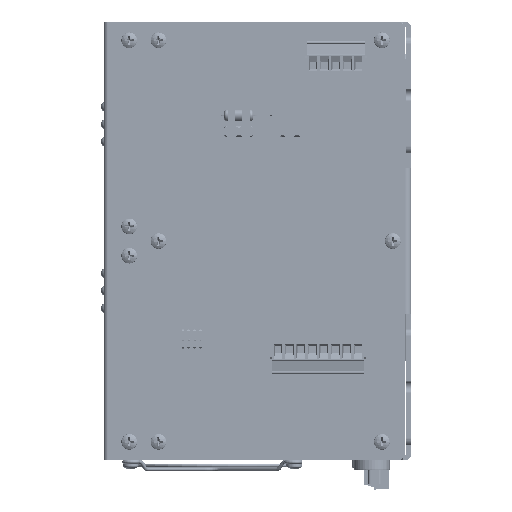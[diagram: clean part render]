
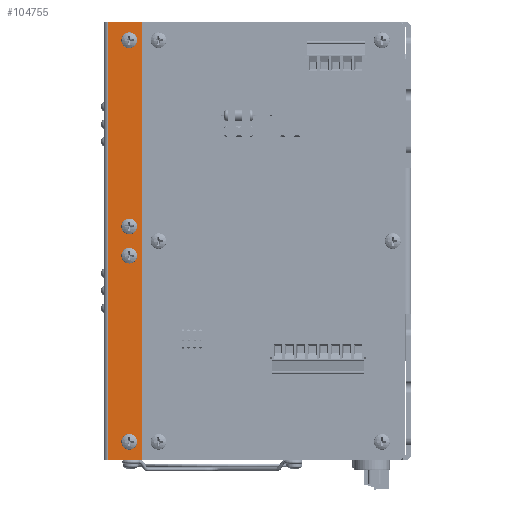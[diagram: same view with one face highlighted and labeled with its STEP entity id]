
A CAD part, left-side view. The second image highlights one B-rep face of the part: STEP entity #104755.
In plain terms, the highlighted planar face has unit normal (-1, 0, 0).
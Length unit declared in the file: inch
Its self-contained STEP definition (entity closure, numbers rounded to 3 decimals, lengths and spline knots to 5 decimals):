
#3649 = EDGE_CURVE ( 'NONE', #4580, #4584, #638875, .T. ) ;
#4195 = EDGE_CURVE ( 'NONE', #4291, #976646, #641702, .T. ) ;
#4291 = VERTEX_POINT ( 'NONE', #642279 ) ;
#4580 = VERTEX_POINT ( 'NONE', #645475 ) ;
#4584 = VERTEX_POINT ( 'NONE', #645455 ) ;
#5308 = VERTEX_POINT ( 'NONE', #649343 ) ;
#5550 = VERTEX_POINT ( 'NONE', #650153 ) ;
#5718 = EDGE_CURVE ( 'NONE', #5550, #5308, #651615, .T. ) ;
#5732 = VERTEX_POINT ( 'NONE', #651387 ) ;
#6209 = VERTEX_POINT ( 'NONE', #654412 ) ;
#7379 = EDGE_CURVE ( 'NONE', #5732, #6209, #663863, .T. ) ;
#101453 = VERTEX_POINT ( 'NONE', #989391 ) ;
#101522 = VERTEX_POINT ( 'NONE', #990586 ) ;
#102604 = EDGE_CURVE ( 'NONE', #102642, #101522, #1000183, .T. ) ;
#102642 = VERTEX_POINT ( 'NONE', #1000793 ) ;
#104207 = EDGE_CURVE ( 'NONE', #976646, #4291, #1015720, .T. ) ;
#104251 = ORIENTED_EDGE ( 'NONE', *, *, #104207, .T. ) ;
#104540 = EDGE_CURVE ( 'NONE', #101453, #101522, #1018340, .T. ) ;
#104572 = EDGE_LOOP ( 'NONE', ( #105001, #105143, #105180, #105133 ) ) ;
#104633 = EDGE_LOOP ( 'NONE', ( #104251, #104771 ) ) ;
#104755 = ADVANCED_FACE ( 'NONE', ( #1018438, #1018451, #1019107, #1019100, #1019030 ), #1019037, .T. ) ;
#104771 = ORIENTED_EDGE ( 'NONE', *, *, #4195, .T. ) ;
#104792 = EDGE_LOOP ( 'NONE', ( #104805, #105022 ) ) ;
#104805 = ORIENTED_EDGE ( 'NONE', *, *, #104904, .T. ) ;
#104821 = EDGE_CURVE ( 'NONE', #4584, #4580, #1019284, .T. ) ;
#104834 = EDGE_LOOP ( 'NONE', ( #104856, #104837 ) ) ;
#104837 = ORIENTED_EDGE ( 'NONE', *, *, #3649, .T. ) ;
#104856 = ORIENTED_EDGE ( 'NONE', *, *, #104821, .T. ) ;
#104863 = EDGE_LOOP ( 'NONE', ( #104870, #105101 ) ) ;
#104870 = ORIENTED_EDGE ( 'NONE', *, *, #105029, .T. ) ;
#104904 = EDGE_CURVE ( 'NONE', #5308, #5550, #1019548, .T. ) ;
#105001 = ORIENTED_EDGE ( 'NONE', *, *, #102604, .F. ) ;
#105022 = ORIENTED_EDGE ( 'NONE', *, *, #5718, .T. ) ;
#105029 = EDGE_CURVE ( 'NONE', #6209, #5732, #1021230, .T. ) ;
#105061 = VERTEX_POINT ( 'NONE', #1020944 ) ;
#105077 = EDGE_CURVE ( 'NONE', #105061, #102642, #1021731, .T. ) ;
#105101 = ORIENTED_EDGE ( 'NONE', *, *, #7379, .T. ) ;
#105133 = ORIENTED_EDGE ( 'NONE', *, *, #104540, .T. ) ;
#105143 = ORIENTED_EDGE ( 'NONE', *, *, #105077, .F. ) ;
#105147 = EDGE_CURVE ( 'NONE', #105061, #101453, #1021223, .T. ) ;
#105180 = ORIENTED_EDGE ( 'NONE', *, *, #105147, .T. ) ;
#361115 = CARTESIAN_POINT ( 'NONE',  ( 0., -0.435, 3.43 ) ) ;
#638875 = CIRCLE ( 'NONE', #639041, 0.07 ) ;
#639041 = AXIS2_PLACEMENT_3D ( 'NONE', #639199, #639196, #639189 ) ;
#639189 = DIRECTION ( 'NONE',  ( 0., 0., -1. ) ) ;
#639196 = DIRECTION ( 'NONE',  ( 1., 0., 0. ) ) ;
#639199 = CARTESIAN_POINT ( 'NONE',  ( 0., -0.435, 4. ) ) ;
#641702 = CIRCLE ( 'NONE', #642179, 0.07 ) ;
#642139 = DIRECTION ( 'NONE',  ( 0., 0., -1. ) ) ;
#642168 = DIRECTION ( 'NONE',  ( 1., 0., 0. ) ) ;
#642175 = CARTESIAN_POINT ( 'NONE',  ( 0., -0.435, 3.5 ) ) ;
#642179 = AXIS2_PLACEMENT_3D ( 'NONE', #642175, #642168, #642139 ) ;
#642279 = CARTESIAN_POINT ( 'NONE',  ( 0., -0.435, 3.57 ) ) ;
#645455 = CARTESIAN_POINT ( 'NONE',  ( 0., -0.435, 3.93 ) ) ;
#645475 = CARTESIAN_POINT ( 'NONE',  ( 0., -0.435, 4.07 ) ) ;
#649343 = CARTESIAN_POINT ( 'NONE',  ( 0., -0.435, 0.2185 ) ) ;
#650153 = CARTESIAN_POINT ( 'NONE',  ( 0., -0.435, 0.4065 ) ) ;
#651153 = CARTESIAN_POINT ( 'NONE',  ( 0., -0.435, 0.3125 ) ) ;
#651387 = CARTESIAN_POINT ( 'NONE',  ( 0., -0.435, 7.2815 ) ) ;
#651545 = AXIS2_PLACEMENT_3D ( 'NONE', #651153, #651630, #651628 ) ;
#651615 = CIRCLE ( 'NONE', #651545, 0.094 ) ;
#651628 = DIRECTION ( 'NONE',  ( 0., 0., -1. ) ) ;
#651630 = DIRECTION ( 'NONE',  ( 1., 0., 0. ) ) ;
#654412 = CARTESIAN_POINT ( 'NONE',  ( 0., -0.435, 7.0935 ) ) ;
#663618 = AXIS2_PLACEMENT_3D ( 'NONE', #663832, #664066, #664064 ) ;
#663832 = CARTESIAN_POINT ( 'NONE',  ( 0., -0.435, 7.1875 ) ) ;
#663863 = CIRCLE ( 'NONE', #663618, 0.094 ) ;
#664064 = DIRECTION ( 'NONE',  ( 0., 0., -1. ) ) ;
#664066 = DIRECTION ( 'NONE',  ( 1., 0., 0. ) ) ;
#976646 = VERTEX_POINT ( 'NONE', #361115 ) ;
#989391 = CARTESIAN_POINT ( 'NONE',  ( 0., -0.07, 7.5 ) ) ;
#990586 = CARTESIAN_POINT ( 'NONE',  ( 0., -0.07, 0. ) ) ;
#1000155 = DIRECTION ( 'NONE',  ( 0., 1., 0. ) ) ;
#1000161 = VECTOR ( 'NONE', #1000155, 39.37008 ) ;
#1000179 = CARTESIAN_POINT ( 'NONE',  ( 0., -0.65, 0. ) ) ;
#1000183 = LINE ( 'NONE', #1000179, #1000161 ) ;
#1000793 = CARTESIAN_POINT ( 'NONE',  ( 0., -0.65, 0. ) ) ;
#1015720 = CIRCLE ( 'NONE', #1016424, 0.07 ) ;
#1016069 = CARTESIAN_POINT ( 'NONE',  ( 0., -0.435, 3.5 ) ) ;
#1016373 = DIRECTION ( 'NONE',  ( 0., 0., -1. ) ) ;
#1016379 = DIRECTION ( 'NONE',  ( 1., 0., 0. ) ) ;
#1016424 = AXIS2_PLACEMENT_3D ( 'NONE', #1016069, #1016379, #1016373 ) ;
#1018297 = DIRECTION ( 'NONE',  ( 0., 0., -1. ) ) ;
#1018300 = VECTOR ( 'NONE', #1018297, 39.37008 ) ;
#1018340 = LINE ( 'NONE', #1018363, #1018300 ) ;
#1018363 = CARTESIAN_POINT ( 'NONE',  ( 0., -0.07, 7.5 ) ) ;
#1018438 = FACE_BOUND ( 'NONE', #104633, .T. ) ;
#1018451 = FACE_BOUND ( 'NONE', #104834, .T. ) ;
#1019030 = FACE_OUTER_BOUND ( 'NONE', #104572, .T. ) ;
#1019037 = PLANE ( 'NONE',  #1019085 ) ;
#1019080 = CARTESIAN_POINT ( 'NONE',  ( 0., -0.435, 4. ) ) ;
#1019085 = AXIS2_PLACEMENT_3D ( 'NONE', #1019409, #1019403, #1019396 ) ;
#1019100 = FACE_BOUND ( 'NONE', #104863, .T. ) ;
#1019107 = FACE_BOUND ( 'NONE', #104792, .T. ) ;
#1019157 = DIRECTION ( 'NONE',  ( 1., 0., 0. ) ) ;
#1019178 = CARTESIAN_POINT ( 'NONE',  ( 0., -0.435, 0.3125 ) ) ;
#1019234 = DIRECTION ( 'NONE',  ( 0., 0., -1. ) ) ;
#1019243 = DIRECTION ( 'NONE',  ( 1., 0., 0. ) ) ;
#1019250 = AXIS2_PLACEMENT_3D ( 'NONE', #1019080, #1019243, #1019234 ) ;
#1019284 = CIRCLE ( 'NONE', #1019250, 0.07 ) ;
#1019396 = DIRECTION ( 'NONE',  ( 0., 0., 1. ) ) ;
#1019403 = DIRECTION ( 'NONE',  ( -1., 0., 0. ) ) ;
#1019409 = CARTESIAN_POINT ( 'NONE',  ( 0., -0.65, 7.5 ) ) ;
#1019503 = DIRECTION ( 'NONE',  ( 0., 0., -1. ) ) ;
#1019548 = CIRCLE ( 'NONE', #1019554, 0.094 ) ;
#1019554 = AXIS2_PLACEMENT_3D ( 'NONE', #1019178, #1019157, #1019503 ) ;
#1020944 = CARTESIAN_POINT ( 'NONE',  ( 0., -0.65, 7.5 ) ) ;
#1021109 = DIRECTION ( 'NONE',  ( 0., 0., -1. ) ) ;
#1021112 = DIRECTION ( 'NONE',  ( 1., 0., 0. ) ) ;
#1021116 = CARTESIAN_POINT ( 'NONE',  ( 0., -0.435, 7.1875 ) ) ;
#1021123 = AXIS2_PLACEMENT_3D ( 'NONE', #1021116, #1021112, #1021109 ) ;
#1021218 = CARTESIAN_POINT ( 'NONE',  ( 0., -0.65, 7.5 ) ) ;
#1021223 = LINE ( 'NONE', #1021218, #1021453 ) ;
#1021230 = CIRCLE ( 'NONE', #1021123, 0.094 ) ;
#1021447 = DIRECTION ( 'NONE',  ( 0., 1., 0. ) ) ;
#1021453 = VECTOR ( 'NONE', #1021447, 39.37008 ) ;
#1021599 = DIRECTION ( 'NONE',  ( 0., 0., -1. ) ) ;
#1021602 = VECTOR ( 'NONE', #1021599, 39.37008 ) ;
#1021609 = CARTESIAN_POINT ( 'NONE',  ( 0., -0.65, 7.5 ) ) ;
#1021731 = LINE ( 'NONE', #1021609, #1021602 ) ;
